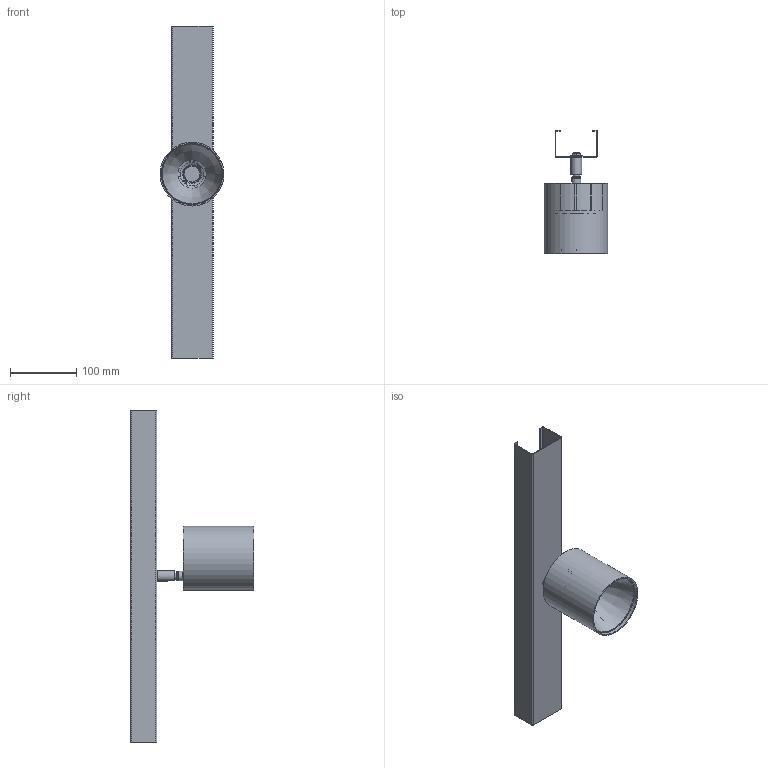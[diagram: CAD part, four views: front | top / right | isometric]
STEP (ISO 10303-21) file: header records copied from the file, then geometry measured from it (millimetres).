
FILE_DESCRIPTION(/* description */ (''),/* implementation_level */ '2;1');
FILE_NAME(/* name */ 'BINGO_LUMI_SYSTEM_SPOT_BLM1.stp',/* time_stamp */ '2025-10-01T14:27:59+02:00',/* author */ ('gian.noche'),/* organization */ (''),/* preprocessor_version */ 'ST-DEVELOPER v19.2',/* originating_system */ 'Autodesk Inventor 2023',/* authorisation */ '');
FILE_SCHEMA (('AUTOMOTIVE_DESIGN { 1 0 10303 214 3 1 1 }'));
Length unit declared in the file: millimetre
Products named in the file (1): IDP_27_BINGO_LUMI_SYSTEM_SPOT_500_Semplifica_1
Bounding box: 96.18 x 185.72 x 500 mm (x, y, z)
Volume: 212727.9 mm3; surface area: 322322.8 mm2
Topology: 2 solids, 2 shells, 2295 faces, 5608 edges, 3268 vertices
Faces by surface type: cylinder 834, plane 425, torus 379, bspline 373, sphere 177, cone 107
Full cylindrical faces by diameter (mm): 1.5 x1, 2.6 x1, 3.2 x2, 5.8 x2, 10 x2, 12.8 x1, 14 x1, 16.2 x1, 48 x1, 92 x1, 92.6 x1, 96.2 x1
Entity records: 118966 total; most frequent: CARTESIAN_POINT 67163, ORIENTED_EDGE 11080, DIRECTION 10884, EDGE_CURVE 5540, AXIS2_PLACEMENT_3D 4522, VERTEX_POINT 3268, CIRCLE 2421, EDGE_LOOP 2334
